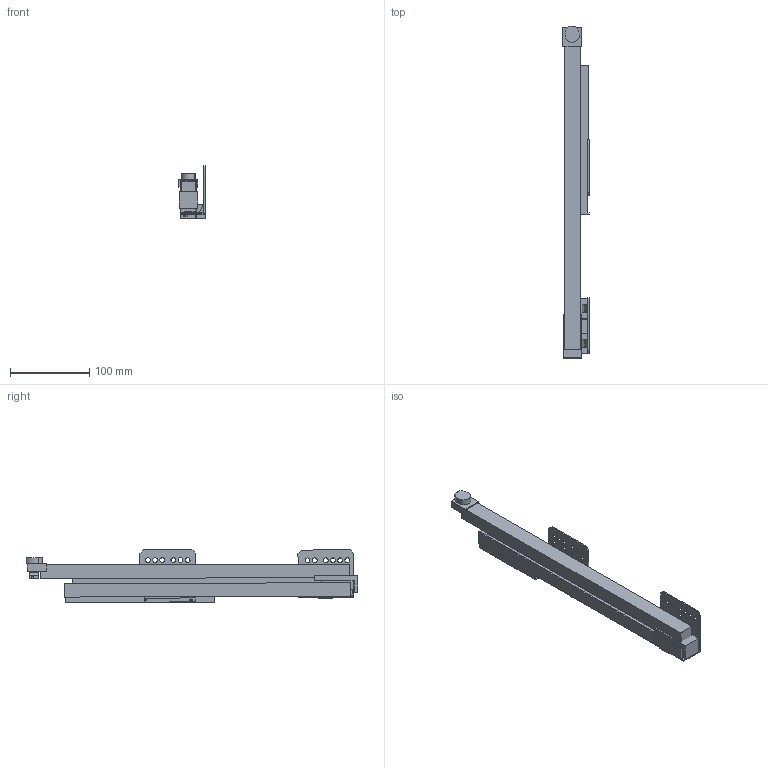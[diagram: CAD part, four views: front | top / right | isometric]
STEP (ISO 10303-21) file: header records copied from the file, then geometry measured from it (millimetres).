
FILE_DESCRIPTION (( 'STEP AP214' ), '1' );
FILE_NAME ('_IMOS Dynamic-XP VA 40kg NL400 RE Tipmatic.step', '2010-07-08T13:26:32', ( 'grass' ), ( '' ), 'SwSTEP 2.0', 'SolidWorks 2010', '' );
FILE_SCHEMA (( 'AUTOMOTIVE_DESIGN' ));
Length unit declared in the file: millimetre
Products named in the file (1): _IMOS Dynamic-XP VA 40kg NL400 RE Tipmatic
Bounding box: 33.14 x 418.02 x 66.67 mm (x, y, z)
Volume: 384140.4 mm3; surface area: 139199.8 mm2
Topology: 8 solids, 8 shells, 184 faces, 496 edges, 330 vertices
Faces by surface type: plane 137, cylinder 47
Entity records: 5917 total; most frequent: CARTESIAN_POINT 1011, ORIENTED_EDGE 992, DIRECTION 962, EDGE_CURVE 496, LINE 400, VECTOR 400, VERTEX_POINT 330, AXIS2_PLACEMENT_3D 281
